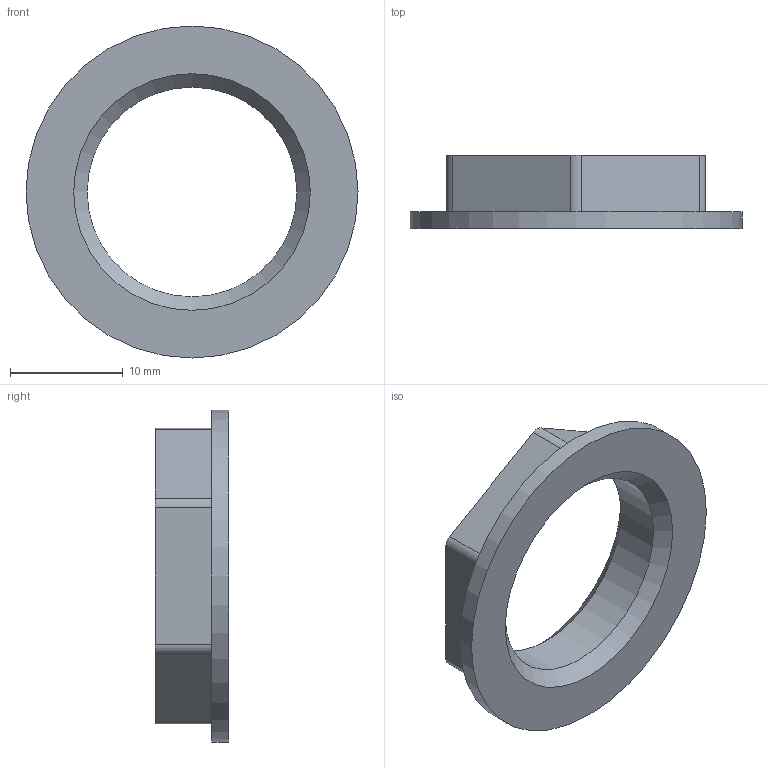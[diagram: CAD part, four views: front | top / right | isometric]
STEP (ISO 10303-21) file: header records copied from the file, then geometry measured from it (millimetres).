
FILE_DESCRIPTION(('STEP AP203'), '1');
FILE_NAME('覆.758414.001 - VTr.655.N.0004 扻艜謾骫罻', '2024-07-12T08:38:09', ('Boss'), (''), 'C3D Converter', 'C3D Toolkit', '');
FILE_SCHEMA(('CONFIG_CONTROL_DESIGN'));
Length unit declared in the file: millimetre
Products named in the file (1): ВР.758414.001
Bounding box: 29.5 x 6.5 x 29.5 mm (x, y, z)
Volume: 1454.1 mm3; surface area: 1657.8 mm2
Topology: 1 solids, 1 shells, 19 faces, 46 edges, 30 vertices
Faces by surface type: plane 9, cylinder 8, cone 2
Full cylindrical faces by diameter (mm): 18.632 x1, 29.5 x1
Entity records: 577 total; most frequent: DIRECTION 100, CARTESIAN_POINT 92, ORIENTED_EDGE 84, EDGE_CURVE 42, AXIS2_PLACEMENT_3D 38, VERTEX_POINT 30, EDGE_LOOP 26, LINE 24
